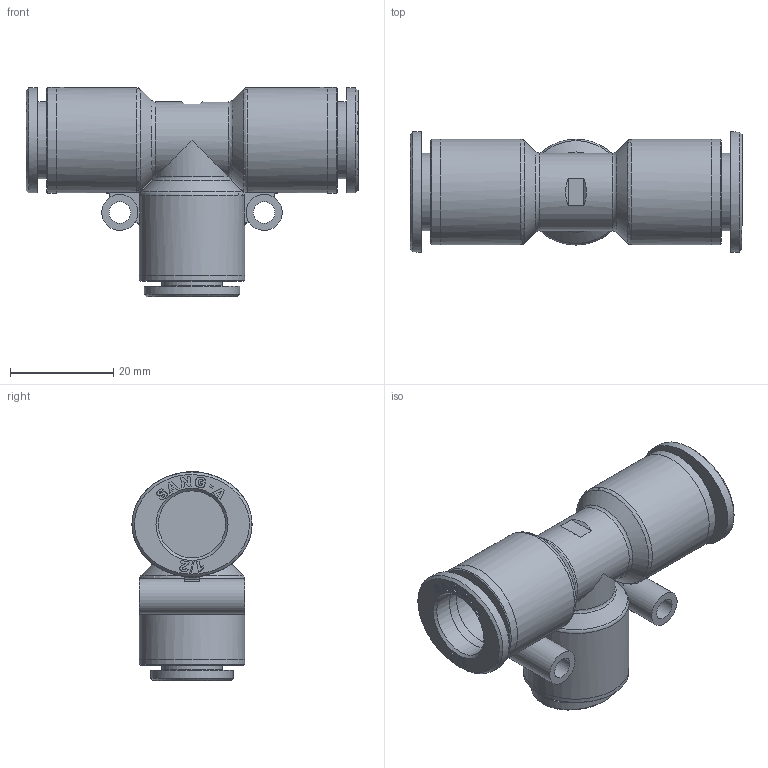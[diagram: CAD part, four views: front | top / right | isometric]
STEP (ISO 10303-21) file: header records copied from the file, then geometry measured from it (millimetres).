
FILE_DESCRIPTION((''),'2;1');
FILE_NAME('C:\Users\user0117\Desktop\김진일\홈페이지\이경\Internet\G-FITTING INCH (STEP)\GPUG 1_2-3_8.stp','2020-02-26T10:25:36',('user0117'),(''),'Autodesk Inventor 2013','Autodesk Inventor 2013','');
FILE_SCHEMA(('AUTOMOTIVE_DESIGN { 1 0 10303 214 1 1 1 1 }'));
Length unit declared in the file: millimetre
Products named in the file (7): GPUG 1_2-3_8; GPUT BODY 1_2(PLASTIC)(3_8); G-COLLAR 1-2L; COLLAR G1-2L; SLEEVE G1-2; COLLAR G1_2-3_8(BRASS); SLEEVE G3-8
Assembly tree (7 placements, depth 3):
  GPUG 1_2-3_8
    GPUT BODY 1_2(PLASTIC)(3_8)
    G-COLLAR 1-2L  x2
      COLLAR G1-2L
      SLEEVE G1-2
    COLLAR G1_2-3_8(BRASS)
    SLEEVE G3-8
Bounding box: 64.4 x 23.29 x 40.55 mm (x, y, z)
Volume: 18837.1 mm3; surface area: 12588.2 mm2
Topology: 7 solids, 7 shells, 967 faces, 2727 edges, 1817 vertices
Faces by surface type: plane 842, bspline 63, cylinder 37, cone 13, torus 12
Full cylindrical faces by diameter (mm): 4.2 x2, 7 x2, 9.75 x3, 11.7 x1, 13 x6, 15 x2, 20.5 x6
Entity records: 22039 total; most frequent: CARTESIAN_POINT 5050, ORIENTED_EDGE 3678, DIRECTION 3060, EDGE_CURVE 1839, VECTOR 1614, LINE 1614, VERTEX_POINT 1239, EDGE_LOOP 738
